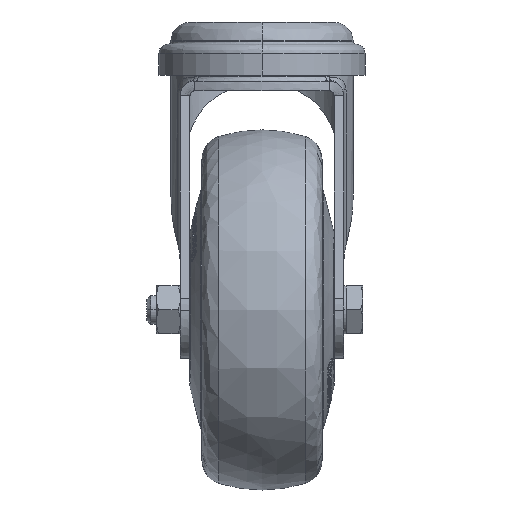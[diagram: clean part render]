
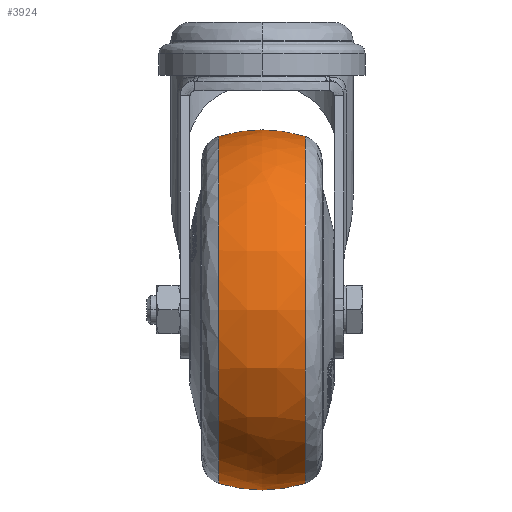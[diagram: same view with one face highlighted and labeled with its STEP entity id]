
A CAD part, top view. The second image highlights one B-rep face of the part: STEP entity #3924.
In plain terms, the highlighted free-form (B-spline) face has degree [3, 3] with [4, 4] control points.
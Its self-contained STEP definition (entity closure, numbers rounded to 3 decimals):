
#457 = CARTESIAN_POINT ( 'NONE',  ( 9., 0., 36.118 ) ) ;
#857 = CIRCLE ( 'NONE', #9717, 36.118 ) ;
#1351 = DIRECTION ( 'NONE',  ( 0., 0., 1. ) ) ;
#1701 = CARTESIAN_POINT ( 'NONE',  ( 3.095, 75.95, -37.975 ) ) ;
#2209 = CARTESIAN_POINT ( 'NONE',  ( -9., 0., 36.118 ) ) ;
#3588 = EDGE_LOOP ( 'NONE', ( #47261, #8985, #13331, #44336 ) ) ;
#3924 = ADVANCED_FACE ( 'NONE', ( #15637 ), #11244, .T. ) ;
#4735 = AXIS2_PLACEMENT_3D ( 'NONE', #38217, #16230, #41944 ) ;
#5538 = CARTESIAN_POINT ( 'NONE',  ( 9., 0., 36.118 ) ) ;
#6462 = EDGE_CURVE ( 'NONE', #18335, #17495, #33448, .T. ) ;
#8763 = EDGE_CURVE ( 'NONE', #16639, #8819, #30494, .T. ) ;
#8819 = VERTEX_POINT ( 'NONE', #31863 ) ;
#8985 = ORIENTED_EDGE ( 'NONE', *, *, #43408, .T. ) ;
#9097 = CARTESIAN_POINT ( 'NONE',  ( -9., 72.236, 36.118 ) ) ;
#9252 = CARTESIAN_POINT ( 'NONE',  ( 9., 72.236, -36.118 ) ) ;
#9717 = AXIS2_PLACEMENT_3D ( 'NONE', #12605, #38312, #16316 ) ;
#11244 =( BOUNDED_SURFACE ( )  B_SPLINE_SURFACE ( 3, 3, ( 
 ( #31189, #9097, #34910, #12858 ),
 ( #38567, #16563, #42274, #20280 ),
 ( #46033, #23995, #1701, #27671 ),
 ( #5538, #31346, #9252, #35068 ) ),
 .UNSPECIFIED., .F., .F., .F. ) 
 B_SPLINE_SURFACE_WITH_KNOTS ( ( 4, 4 ),
 ( 4, 4 ),
 ( 0., 1. ),
 ( 0., 1. ),
 .UNSPECIFIED. ) 
 GEOMETRIC_REPRESENTATION_ITEM ( )  RATIONAL_B_SPLINE_SURFACE ( (
 ( 1., 0.333, 0.333, 1.),
 ( 0.969, 0.323, 0.323, 0.969),
 ( 0.969, 0.323, 0.323, 0.969),
 ( 1., 0.333, 0.333, 1.) ) ) 
 REPRESENTATION_ITEM ( '' )  SURFACE ( )  );
#12605 = CARTESIAN_POINT ( 'NONE',  ( 9., 0., 0. ) ) ;
#12858 = CARTESIAN_POINT ( 'NONE',  ( -9., 0., -36.118 ) ) ;
#13207 = AXIS2_PLACEMENT_3D ( 'NONE', #45690, #23642, #1351 ) ;
#13331 = ORIENTED_EDGE ( 'NONE', *, *, #6462, .T. ) ;
#15637 = FACE_OUTER_BOUND ( 'NONE', #3588, .T. ) ;
#16230 = DIRECTION ( 'NONE',  ( 0., 1., 0. ) ) ;
#16316 = DIRECTION ( 'NONE',  ( 0., 0., 1. ) ) ;
#16563 = CARTESIAN_POINT ( 'NONE',  ( -3.095, 75.95, 37.975 ) ) ;
#16639 = VERTEX_POINT ( 'NONE', #18571 ) ;
#16921 = DIRECTION ( 'NONE',  ( 0., -1., 0. ) ) ;
#17495 = VERTEX_POINT ( 'NONE', #457 ) ;
#18335 = VERTEX_POINT ( 'NONE', #2209 ) ;
#18571 = CARTESIAN_POINT ( 'NONE',  ( -9., 0., -36.118 ) ) ;
#20280 = CARTESIAN_POINT ( 'NONE',  ( -3.095, 0., -37.975 ) ) ;
#20912 = AXIS2_PLACEMENT_3D ( 'NONE', #38936, #16921, #42637 ) ;
#23642 = DIRECTION ( 'NONE',  ( 1., 0., 0. ) ) ;
#23995 = CARTESIAN_POINT ( 'NONE',  ( 3.095, 75.95, 37.975 ) ) ;
#27671 = CARTESIAN_POINT ( 'NONE',  ( 3.095, 0., -37.975 ) ) ;
#30494 = CIRCLE ( 'NONE', #20912, 30. ) ;
#30877 = CIRCLE ( 'NONE', #13207, 36.118 ) ;
#31189 = CARTESIAN_POINT ( 'NONE',  ( -9., 0., 36.118 ) ) ;
#31346 = CARTESIAN_POINT ( 'NONE',  ( 9., 72.236, 36.118 ) ) ;
#31863 = CARTESIAN_POINT ( 'NONE',  ( 9., 0., -36.118 ) ) ;
#33448 = CIRCLE ( 'NONE', #4735, 30. ) ;
#34910 = CARTESIAN_POINT ( 'NONE',  ( -9., 72.236, -36.118 ) ) ;
#35068 = CARTESIAN_POINT ( 'NONE',  ( 9., 0., -36.118 ) ) ;
#38217 = CARTESIAN_POINT ( 'NONE',  ( 0., 0., 7.5 ) ) ;
#38312 = DIRECTION ( 'NONE',  ( -1., 0., 0. ) ) ;
#38567 = CARTESIAN_POINT ( 'NONE',  ( -3.095, 0., 37.975 ) ) ;
#38936 = CARTESIAN_POINT ( 'NONE',  ( 0., 0., -7.5 ) ) ;
#40025 = EDGE_CURVE ( 'NONE', #17495, #8819, #857, .T. ) ;
#41944 = DIRECTION ( 'NONE',  ( 0., 0., 1. ) ) ;
#42274 = CARTESIAN_POINT ( 'NONE',  ( -3.095, 75.95, -37.975 ) ) ;
#42637 = DIRECTION ( 'NONE',  ( 0., 0., -1. ) ) ;
#43408 = EDGE_CURVE ( 'NONE', #16639, #18335, #30877, .T. ) ;
#44336 = ORIENTED_EDGE ( 'NONE', *, *, #40025, .T. ) ;
#45690 = CARTESIAN_POINT ( 'NONE',  ( -9., 0., 0. ) ) ;
#46033 = CARTESIAN_POINT ( 'NONE',  ( 3.095, 0., 37.975 ) ) ;
#47261 = ORIENTED_EDGE ( 'NONE', *, *, #8763, .F. ) ;
